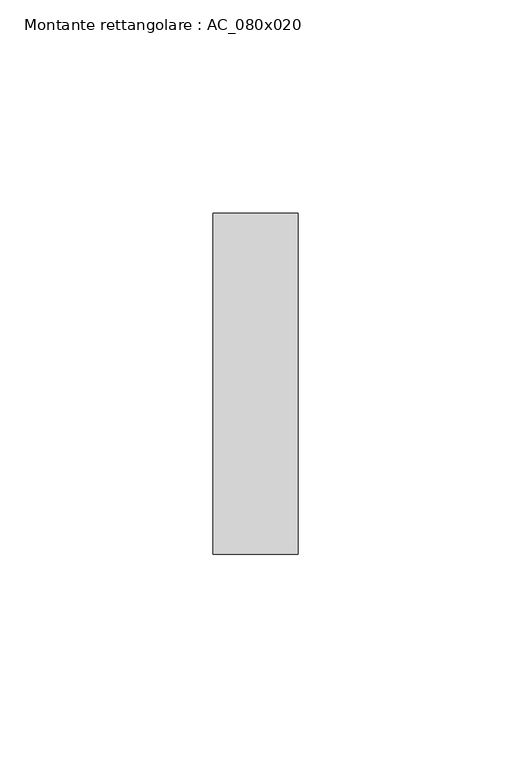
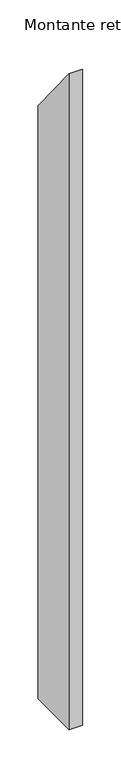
"""IFC4 building model written with IfcOpenShell, lengths in millimetres: member geometry, Montante rettangolare : AC_080x020."""

from ifc_helpers import new_model, si_unit, frame, origin, place, context, project, spatial, polyline, outline, extrude, source, transform, mapped, element, save


def montante_rettangolare_ac_080x020_327cfd7e(model_context):
    return source(origin(), model_context, "Body", "SweptSolid", [
        extrude(outline(polyline([(-40.0, 49.876976), (40.0, -49.876976), (40.0, -990.2030045), (-40.0, -990.2030045), (-40.0, 49.876976)])), frame((-20.0, 0.0, 0.0), z_axis=(1.0, 0.0, 0.0), x_axis=(0.0, 1.0, 0.0)), (0.0, 0.0, 1.0), 20.0),
    ])


if __name__ == "__main__":
    model = new_model("IFC4")
    model_context = context("Model", 3, world=origin())
    ifc_project = project(units=[si_unit("LENGTHUNIT", "METRE", prefix="MILLI")], contexts=[model_context])
    site = spatial("IfcSite", under=ifc_project)
    building = spatial("IfcBuilding", under=site)
    placement = place(None, origin())
    montante_rettangolare_ac_080x020_shape = montante_rettangolare_ac_080x020_327cfd7e(model_context)
    element("IfcMember", 1, ObjectType="Montante rettangolare : AC_080x020", at=placement, inside=building, context=model_context, shape_type="MappedRepresentation", body=[
        mapped(montante_rettangolare_ac_080x020_shape, transform((0.0, 0.0, 0.0), x_axis=(1.0, 0.0, 0.0), y_axis=(0.0, 1.0, 0.0), z_axis=(0.0, 0.0, 1.0))),
    ])
    save(model, "model.ifc")
